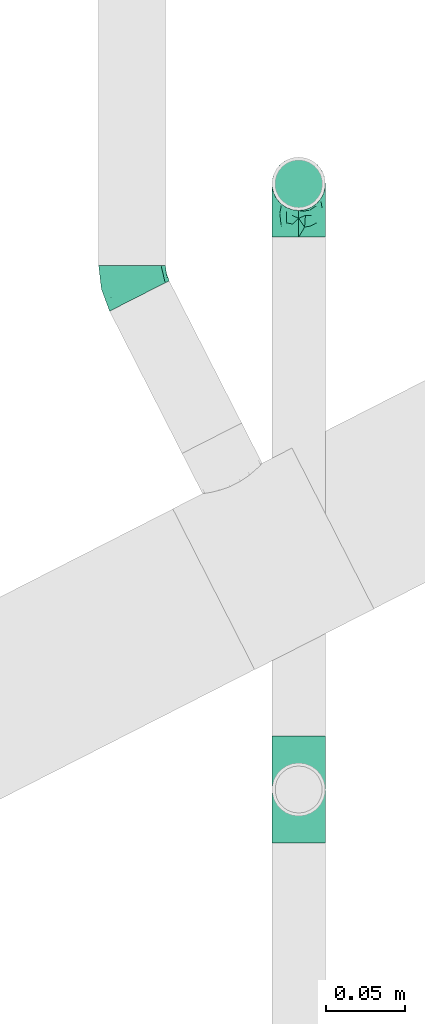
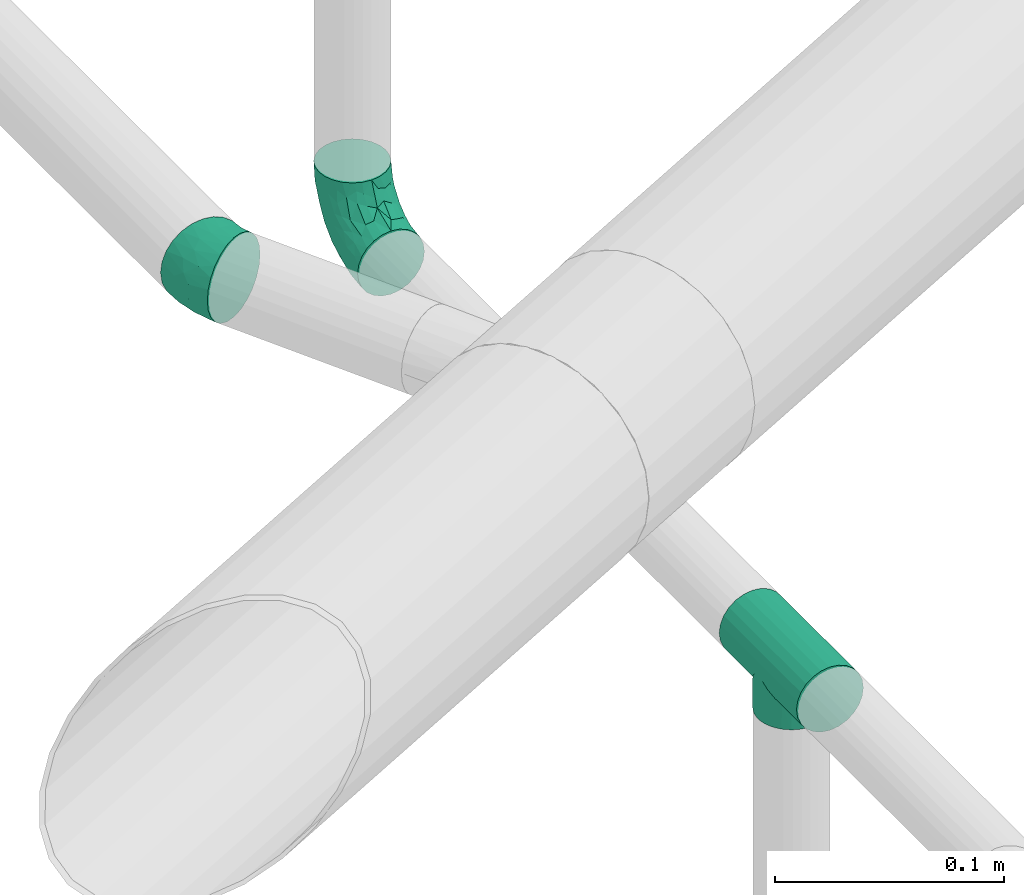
# One storey, part 75 of 94: 3 flow fittings.
"""IFC2X3 building model written with IfcOpenShell, lengths in millimetres."""

from ifc_helpers import new_model, entity, si_unit, converted_unit, derived_unit, direction, frame, origin_with_axes, place, context, subcontext, project, spatial, open_shell, surface_model, source, transform, mapped, type_object, element, save


model = new_model("IFC2X3")

# Units and contexts
model_context = context("Model", 3, precision=0.01, world=frame((0.0, 4.29681676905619e-09, 0.0)), true_north=direction((4.01073788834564e-13, 1.0)))
plan_context = context("Plan", 3, precision=0.01, world=frame((0.0, 4.29681676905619e-09, 0.0)), true_north=direction((4.01073788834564e-13, 1.0)))
body_context = subcontext(model_context, "Body", "Model", "MODEL_VIEW")
ifc_project = project(units=[converted_unit("PLANEANGLEUNIT", "DEGREE", entity("IfcPositiveLengthMeasure", 0.0174532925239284), si_unit("PLANEANGLEUNIT", "RADIAN"), dimensions=[0, 0, 0, 0, 0, 0, 0]), si_unit("AREAUNIT", "SQUARE_METRE"), si_unit("LENGTHUNIT", "METRE", prefix="MILLI"), si_unit("MASSUNIT", "GRAM", prefix="KILO"), si_unit("POWERUNIT", "WATT"), si_unit("PRESSUREUNIT", "PASCAL", prefix="KILO"), si_unit("FORCEUNIT", "NEWTON", prefix="KILO"), si_unit("ELECTRICVOLTAGEUNIT", "VOLT"), si_unit("ELECTRICCURRENTUNIT", "AMPERE"), si_unit("THERMODYNAMICTEMPERATUREUNIT", "DEGREE_CELSIUS"), si_unit("TIMEUNIT", "SECOND"), si_unit("VOLUMEUNIT", "CUBIC_METRE"), derived_unit("LINEARVELOCITYUNIT", [(si_unit("LENGTHUNIT", "METRE"), 1), (si_unit("TIMEUNIT", "SECOND"), -1)]), derived_unit("VOLUMETRICFLOWRATEUNIT", [(si_unit("VOLUMEUNIT", "CUBIC_METRE"), 1), (si_unit("TIMEUNIT", "SECOND"), -1)]), derived_unit("THERMALTRANSMITTANCEUNIT", [(si_unit("POWERUNIT", "WATT"), 1), (si_unit("THERMODYNAMICTEMPERATUREUNIT", "KELVIN"), -1), (si_unit("AREAUNIT", "SQUARE_METRE"), -1)]), derived_unit("SOUNDPRESSUREUNIT", [(si_unit("PRESSUREUNIT", "PASCAL"), 1)])], contexts=[model_context, plan_context])

# Site, building, storey
site_placement = place(None, frame((0.0, -4.29681676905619e-09, 0.0), z_axis=(0.0, 0.0, 1.0), x_axis=(1.0, 0.0, 0.0)))
site = spatial("IfcSite", under=ifc_project, at=site_placement, CompositionType="ELEMENT")
building_placement = place(site_placement, frame((0.0, 4.29681676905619e-09, 0.0), z_axis=(0.0, 0.0, 1.0), x_axis=(1.0, 0.0, 0.0)))
building = spatial("IfcBuilding", under=site, at=building_placement, Name="mc-building", CompositionType="ELEMENT")
storey_placement = place(building_placement, frame((0.0, 0.0, 210900.0), z_axis=(0.0, 0.0, 1.0), x_axis=(1.0, 0.0, 0.0)))
storey = spatial("IfcBuildingStorey", under=building, at=storey_placement, Name="Nivå F", CompositionType="ELEMENT", Elevation=210900.0)

# Flow fittings
pipe_fitting_type_1 = type_object("IfcPipeFittingType", Name="magi_pipe_fe_tee_centric_90_NOR", PredefinedType="JUNCTION")
shared_shape_1 = source(origin_with_axes(), body_context, "Body", "SurfaceModel", [
    surface_model("IfcShellBasedSurfaceModel", [(-33.8, 4.37404, -16.32415), (-33.8, 0.0, -16.9), (-33.8, 16.32415, -4.37404), (-33.8, 8.45, -14.63583), (-33.8, 11.9501, -11.9501), (-33.8, 14.63583, -8.45), (-33.8, -16.9, 0.0), (-33.8, -11.9501, -11.9501), (-33.8, -14.63583, -8.45), (-33.8, -8.45, -14.63583), (-33.8, -4.37404, -16.32415), (-33.8, -16.32415, -4.37404), (-33.8, 14.63583, 8.45), (-33.8, 16.32415, 4.37404), (-33.8, -8.45, 14.63583), (-33.8, 8.45, 14.63583), (-33.8, 11.9501, 11.9501), (-33.8, 4.37404, 16.32415), (-33.8, 0.0, 16.9), (-33.8, -11.9501, 11.9501), (-33.8, -14.63583, 8.45), (-33.8, -16.32415, 4.37404), (-33.8, -4.37404, 16.32415), (-33.8, 16.9, 0.0), (33.8, 4.37404, -16.32415), (33.8, -16.9, 0.0), (33.8, 0.0, -16.9), (33.8, 14.63583, -8.45), (33.8, 8.45, -14.63583), (33.8, 16.32415, -4.37404), (33.8, 11.9501, -11.9501), (33.8, -16.32415, 4.37404), (33.8, -8.45, -14.63583), (33.8, -4.37404, -16.32415), (33.8, -11.9501, -11.9501), (33.8, -14.63583, -8.45), (33.8, -16.32415, -4.37404), (33.8, 16.32415, 4.37404), (33.8, 8.45, 14.63583), (33.8, 14.63583, 8.45), (33.8, 11.9501, 11.9501), (33.8, -8.45, 14.63583), (33.8, 4.37404, 16.32415), (33.8, -14.63583, 8.45), (33.8, -11.9501, 11.9501), (33.8, 0.0, 16.9), (33.8, -4.37404, 16.32415), (33.8, 16.9, 0.0), (16.28698, -16.28698, 4.51047), (16.9, -16.9, 0.0), (14.62704, -14.62704, 8.4652), (9.47213, -9.47213, 13.99602), (12.26343, -12.26343, 11.62834), (-16.9, -16.9, 0.0), (-16.28698, -16.28698, 4.51047), (-14.62704, -14.62704, 8.4652), (-12.26343, -12.26343, 11.62834), (-9.47213, -9.47213, 13.99602), (-6.42894, -6.42894, 15.62942), (6.42894, -6.42894, 15.62942), (3.24522, -3.24522, 16.58549), (0.0, 0.0, 16.9), (-3.24522, -3.24522, 16.58549), (3.24522, -3.24522, -16.58549), (0.0, 0.0, -16.9), (-3.24522, -3.24522, -16.58549), (-6.42894, -6.42894, -15.62942), (6.42894, -6.42894, -15.62942), (9.47213, -9.47213, -13.99602), (12.26343, -12.26343, -11.62834), (14.62704, -14.62704, -8.4652), (16.28698, -16.28698, -4.51047), (-9.47213, -9.47213, -13.99602), (-12.26343, -12.26343, -11.62834), (-16.28698, -16.28698, -4.51047), (-14.62704, -14.62704, -8.4652), (4.37404, -25.35, -16.32415), (-16.9, -25.35, 0.0), (0.0, -25.35, -16.9), (14.63583, -25.35, -8.45), (8.45, -25.35, -14.63583), (16.32415, -25.35, -4.37404), (11.9501, -25.35, -11.9501), (-11.9501, -25.35, -11.9501), (-8.45, -25.35, -14.63583), (-4.37404, -25.35, -16.32415), (-14.63583, -25.35, -8.45), (-16.32415, -25.35, -4.37404), (16.9, -25.35, 0.0), (8.45, -25.35, 14.63583), (16.32415, -25.35, 4.37404), (14.63583, -25.35, 8.45), (-8.45, -25.35, 14.63583), (11.9501, -25.35, 11.9501), (4.37404, -25.35, 16.32415), (-16.32415, -25.35, 4.37404), (-11.9501, -25.35, 11.9501), (-14.63583, -25.35, 8.45), (0.0, -25.35, 16.9), (-4.37404, -25.35, 16.32415)], [open_shell([[[0, 1, 2]], [[3, 0, 4]], [[0, 2, 5]], [[4, 0, 5]], [[6, 2, 1]], [[7, 8, 9]], [[1, 10, 9]], [[11, 6, 8]], [[1, 9, 8]], [[1, 8, 6]], [[6, 12, 2]], [[12, 13, 2]], [[14, 12, 6]], [[12, 14, 15]], [[16, 12, 15]], [[17, 15, 18]], [[19, 14, 20]], [[21, 20, 14]], [[22, 18, 14]], [[14, 6, 21]], [[14, 18, 15]], [[23, 2, 13]], [[24, 25, 26]], [[27, 24, 28]], [[27, 29, 24]], [[27, 28, 30]], [[31, 25, 24]], [[26, 32, 33]], [[26, 34, 32]], [[35, 25, 36]], [[35, 34, 26]], [[25, 35, 26]], [[24, 29, 31]], [[29, 37, 38]], [[38, 37, 39]], [[38, 31, 29]], [[38, 39, 40]], [[41, 38, 42]], [[43, 41, 44]], [[41, 43, 31]], [[41, 45, 46]], [[41, 31, 38]], [[42, 45, 41]], [[29, 47, 37]], [[31, 43, 48]], [[25, 31, 49]], [[49, 31, 48]], [[43, 50, 48]], [[44, 41, 51]], [[50, 43, 52]], [[51, 52, 44]], [[52, 43, 44]], [[53, 54, 21]], [[53, 21, 6]], [[21, 54, 20]], [[54, 55, 20]], [[56, 57, 19]], [[19, 20, 56]], [[19, 57, 14]], [[56, 20, 55]], [[14, 57, 58]], [[51, 41, 59]], [[60, 45, 61]], [[59, 46, 60]], [[46, 59, 41]], [[60, 46, 45]], [[61, 45, 42]], [[39, 37, 13]], [[16, 38, 40]], [[12, 40, 39]], [[42, 38, 15]], [[23, 37, 47]], [[62, 61, 18]], [[62, 22, 58]], [[22, 62, 18]], [[58, 22, 14]], [[61, 17, 18]], [[42, 17, 61]], [[15, 17, 42]], [[15, 38, 16]], [[12, 16, 40]], [[13, 12, 39]], [[37, 23, 13]], [[5, 27, 30]], [[23, 47, 29]], [[30, 28, 3]], [[27, 2, 29]], [[26, 33, 63]], [[26, 64, 24]], [[64, 26, 63]], [[28, 24, 0]], [[64, 0, 24]], [[4, 30, 3]], [[2, 27, 5]], [[5, 30, 4]], [[2, 23, 29]], [[65, 66, 10]], [[1, 0, 64]], [[1, 65, 10]], [[66, 9, 10]], [[0, 3, 28]], [[1, 64, 65]], [[63, 33, 67]], [[32, 34, 68]], [[69, 68, 34]], [[35, 70, 69]], [[69, 34, 35]], [[32, 68, 67]], [[36, 25, 49]], [[36, 71, 35]], [[71, 36, 49]], [[35, 71, 70]], [[72, 9, 66]], [[72, 7, 9]], [[7, 72, 73]], [[7, 73, 8]], [[74, 53, 11]], [[75, 74, 8]], [[74, 11, 8]], [[11, 53, 6]], [[75, 8, 73]], [[32, 67, 33]], [[76, 77, 78]], [[79, 76, 80]], [[79, 81, 76]], [[79, 80, 82]], [[77, 76, 81]], [[78, 83, 84]], [[84, 85, 78]], [[86, 77, 87]], [[83, 78, 86]], [[77, 86, 78]], [[81, 88, 77]], [[89, 88, 90]], [[89, 90, 91]], [[92, 77, 89]], [[89, 91, 93]], [[92, 89, 94]], [[95, 96, 97]], [[96, 95, 92]], [[92, 98, 99]], [[95, 77, 92]], [[94, 98, 92]], [[89, 77, 88]], [[77, 95, 53]], [[54, 53, 95]], [[97, 96, 56]], [[96, 92, 57]], [[95, 97, 54]], [[58, 92, 99]], [[55, 54, 97]], [[56, 55, 97]], [[58, 57, 92]], [[98, 61, 62]], [[58, 99, 62]], [[56, 96, 57]], [[62, 99, 98]], [[94, 60, 98]], [[89, 59, 94]], [[91, 90, 48]], [[52, 93, 91]], [[93, 51, 89]], [[49, 90, 88]], [[59, 60, 94]], [[51, 59, 89]], [[49, 48, 90]], [[50, 52, 91]], [[48, 50, 91]], [[51, 93, 52]], [[98, 60, 61]], [[88, 81, 49]], [[71, 49, 81]], [[79, 82, 69]], [[82, 80, 68]], [[81, 79, 71]], [[67, 80, 76]], [[70, 71, 79]], [[69, 70, 79]], [[67, 68, 80]], [[78, 64, 63]], [[67, 76, 63]], [[69, 82, 68]], [[63, 76, 78]], [[85, 65, 78]], [[84, 66, 85]], [[86, 87, 74]], [[86, 73, 83]], [[72, 84, 83]], [[53, 87, 77]], [[66, 65, 85]], [[72, 66, 84]], [[53, 74, 87]], [[75, 73, 86]], [[74, 75, 86]], [[72, 83, 73]], [[78, 65, 64]]])]),
])
flow_fitting_1_placement = place(storey_placement, frame((720388.90308, 443252.252, 3600.0), z_axis=(1.0, 0.0, 0.0), x_axis=(0.0, 1.0, 0.0)))
element("IfcFlowFitting", 1, at=flow_fitting_1_placement, inside=storey, type_object=pipe_fitting_type_1, Name="magi_pipe_fe_tee_centric_90_NOR", context=body_context, shape_type="MappedRepresentation", body=[
    mapped(shared_shape_1, transform((0.0, 0.0, 0.0), scale=1.0)),
])
pipe_fitting_type_2 = type_object("IfcPipeFittingType", Name="magi_pipe_fe_elbow_short_001", PredefinedType="BEND")
shared_shape_2 = source(origin_with_axes(), body_context, "Body", "SurfaceModel", [
    surface_model("IfcShellBasedSurfaceModel", [(-33.8, 8.45, -14.63583), (-33.8, 4.37404, -16.32415), (-33.8, 11.9501, -11.9501), (-33.8, -11.9501, -11.9501), (-33.8, -14.63583, -8.45), (-33.8, -8.45, -14.63583), (-33.8, 0.0, -16.9), (-33.8, -4.37404, -16.32415), (-33.8, -4.37404, 16.32415), (-33.8, 0.0, 16.9), (-33.8, -8.45, 14.63583), (-33.8, 16.32415, -4.37404), (-33.8, 14.63583, -8.45), (-33.8, -16.32415, -4.37404), (-33.8, -16.9, 0.0), (-33.8, -16.32415, 4.37404), (-33.8, 11.9501, 11.9501), (-33.8, 14.63583, 8.45), (-33.8, 16.32415, 4.37404), (-33.8, 4.37404, 16.32415), (-33.8, 8.45, 14.63583), (-33.8, -14.63583, 8.45), (-33.8, -11.9501, 11.9501), (-33.8, 16.9, 0.0), (-11.9501, 33.8, -11.9501), (0.0, 33.8, -16.9), (-4.37404, 33.8, -16.32415), (-8.45, 33.8, -14.63583), (-14.63583, 33.8, -8.45), (-16.32415, 33.8, -4.37404), (14.63583, 33.8, -8.45), (8.45, 33.8, 14.63583), (16.32415, 33.8, -4.37404), (8.45, 33.8, -14.63583), (11.9501, 33.8, -11.9501), (4.37404, 33.8, -16.32415), (16.32415, 33.8, 4.37404), (16.9, 33.8, 0.0), (-11.9501, 33.8, 11.9501), (-16.32415, 33.8, 4.37404), (-14.63583, 33.8, 8.45), (-8.45, 33.8, 14.63583), (-4.37404, 33.8, 16.32415), (11.9501, 33.8, 11.9501), (14.63583, 33.8, 8.45), (0.0, 33.8, 16.9), (4.37404, 33.8, 16.32415), (-16.9, 33.8, 0.0), (-24.79389, -13.12945, 9.48721), (-22.19287, -9.75018, 12.59315), (-24.09897, -14.97035, 0.0), (-14.93934, -10.76256, 8.5297), (-22.46095, -14.75051, 5.27077), (14.75051, 22.46094, 5.27077), (11.9251, 13.23888, 4.33236), (13.04069, 14.39795, 0.0), (7.71387, 13.68847, 11.55891), (9.75018, 22.19287, 12.59315), (4.10169, 13.0571, 14.04018), (-24.84007, -6.39063, 15.2048), (-25.81779, -2.23879, 16.61097), (-23.66549, 2.59054, 16.87119), (-26.50418, 14.06512, 11.08152), (-24.21253, 17.66365, 7.72657), (-29.58514, 15.86957, 7.00283), (-6.17382, -7.5455, 0.0), (-13.23888, -11.9251, 4.33236), (-14.39795, -13.04069, 0.0), (-17.81434, 18.87373, 11.97104), (-6.30846, 29.15138, 15.82987), (-2.31622, 25.28002, 16.85849), (-29.23923, 10.23435, 13.77053), (-1.45439, -2.85688, 7.61475), (-0.28326, 0.34872, 10.09509), (-5.74484, -4.04709, 10.4122), (-4.41137, 11.31918, 16.59407), (-8.39727, 3.10034, 15.7812), (-1.72649, 9.1306, 15.53089), (-17.39909, 24.75344, 7.64977), (-26.19233, 20.0512, 0.0), (-28.14518, 17.29657, 4.25857), (-26.05147, 6.6281, 15.96447), (-5.87354, 16.61944, 16.86968), (-12.51807, 12.51807, 16.48937), (-10.06312, 7.38516, 16.81295), (-3.01882, 3.01882, 13.81718), (-13.0571, -4.10169, 14.04018), (-16.82553, -0.15166, 16.38038), (10.76256, 14.93934, 8.5297), (13.12945, 24.79389, 9.48721), (6.39063, 24.84007, 15.2048), (2.23879, 25.81779, 16.61097), (-13.68847, -7.71387, 11.55891), (14.97035, 24.09897, 0.0), (-7.30894, 22.89991, 16.09489), (-10.67958, 26.17414, 14.008), (-12.78295, 18.26924, 15.06066), (-13.88562, 22.45231, 12.93244), (-18.04944, 15.16501, 14.04434), (-23.11658, 20.08178, 4.02986), (-21.84989, 21.84989, 0.0), (-18.55817, 25.48277, 3.93065), (-13.95142, 26.94732, 11.03289), (-18.57098, 7.23906, 16.59756), (-16.58335, 4.14122, 16.89279), (-17.96666, 11.46709, 15.63151), (-9.84453, 17.54304, 16.18938), (0.15166, 16.82553, 16.38038), (-23.27207, 11.47201, 14.23154), (3.84842, 5.86994, 10.70473), (-8.0212, -7.54413, 7.93275), (1.00345, -2.19508, 4.57414), (5.13203, 3.01004, 5.90201), (5.24161, 1.7543, 2.53265), (8.70457, 7.04947, 3.99182), (-20.0512, 26.19233, 0.0), (8.4852, 8.76699, 7.09296), (-4.55488, -6.72064, 4.90681), (2.05031, -2.05031, 0.0), (7.5455, 6.17382, 0.0), (-26.75399, 2.1369, -16.845), (-14.61995, 24.73803, -11.27736), (-28.45274, -13.45335, -9.81895), (-26.00469, 6.63555, -15.96645), (-23.06726, 20.04573, -4.26202), (-13.80647, -4.26506, -14.17873), (-14.67501, -0.21081, -16.07388), (-6.7902, -0.2828, -13.8478), (-24.53586, 11.08096, -14.13417), (-26.72048, 14.00837, -11.05776), (10.0967, 24.44989, -12.75976), (5.83237, 21.40218, -15.03047), (6.66249, 28.54238, -15.38093), (-20.38182, 15.48705, -12.74596), (12.53268, 21.23441, -9.15363), (12.54494, 15.67504, -5.54878), (9.7522, 12.89279, -8.66343), (-15.65186, 19.64213, -13.01327), (-12.03528, 20.66498, -14.67665), (-15.61907, 15.61906, -14.83879), (-25.56551, -15.26206, 0.0), (-24.65452, -15.12934, -5.50955), (13.45335, 28.45274, -9.81895), (15.12934, 24.65452, -5.50955), (-7.35442, -8.31014, -5.65563), (-15.67504, -12.54494, -5.54878), (-24.44989, -10.0967, -12.75976), (0.16522, 0.41303, -9.71728), (-5.70658, -5.33066, -8.89288), (-5.13869, -2.37198, -11.53565), (-21.23441, -12.53268, -9.15363), (0.71146, 7.93863, -14.09382), (0.21081, 14.67501, -16.07388), (3.49291, 14.42772, -14.76381), (-24.89911, -2.13088, -16.591), (-28.54238, -6.66249, -15.38093), (-18.44386, -7.71663, -13.26957), (2.13088, 24.89911, -16.591), (-28.64342, 17.44413, -2.89318), (1.70017, -1.28722, -5.09504), (-16.57067, 26.81947, -7.36596), (-17.69055, 27.4263, -3.76405), (-12.89279, -9.7522, -8.66343), (-5.96611, 5.96611, -15.95814), (-20.53709, 20.09345, -8.28985), (-2.1369, 26.75399, -16.845), (-6.89872, 24.58781, -16.02578), (-10.60739, 26.53157, -13.98044), (-21.40218, -5.83237, -15.03047), (2.93192, 5.89627, -11.55917), (6.89393, 12.61842, -11.82233), (5.58056, 5.95325, -8.79455), (-3.99512, 18.61798, -16.89635), (8.31014, 7.35442, -5.65563), (-9.1383, 9.86148, -16.89041), (-9.99983, 16.02119, -16.39699), (-16.68576, 9.78031, -16.34199), (-27.01915, 16.61158, -7.12979), (15.26206, 25.56551, 0.0), (-18.61798, 3.99512, -16.89635), (-19.37495, 27.82495, 0.0), (-12.61842, -6.89393, -11.82233), (-18.84705, 19.14018, -10.96545)], [open_shell([[[0, 1, 2]], [[3, 4, 5]], [[6, 7, 5]], [[8, 9, 10]], [[1, 6, 2]], [[11, 12, 2]], [[4, 2, 6]], [[2, 13, 10]], [[5, 4, 6]], [[2, 4, 13]], [[14, 15, 13]], [[11, 2, 16]], [[11, 17, 18]], [[11, 16, 17]], [[19, 20, 16]], [[16, 2, 10]], [[19, 16, 10]], [[21, 22, 15]], [[22, 13, 15]], [[22, 10, 13]], [[10, 9, 19]], [[11, 18, 23]], [[24, 25, 26]], [[24, 26, 27]], [[24, 28, 29]], [[25, 24, 30]], [[31, 32, 24]], [[33, 30, 34]], [[33, 35, 25]], [[25, 30, 33]], [[32, 30, 24]], [[32, 36, 37]], [[38, 24, 29]], [[39, 40, 29]], [[40, 38, 29]], [[38, 41, 42]], [[38, 31, 24]], [[31, 38, 42]], [[36, 43, 44]], [[36, 32, 43]], [[31, 45, 46]], [[32, 31, 43]], [[42, 45, 31]], [[39, 29, 47]], [[22, 48, 49]], [[15, 14, 50]], [[51, 48, 52]], [[53, 54, 55]], [[48, 22, 21]], [[15, 52, 21]], [[56, 57, 58]], [[49, 10, 22]], [[49, 59, 10]], [[9, 60, 61]], [[62, 63, 64]], [[65, 66, 67]], [[57, 43, 31]], [[62, 68, 63]], [[42, 69, 70]], [[20, 71, 16]], [[8, 60, 9]], [[72, 73, 74]], [[75, 76, 77]], [[16, 62, 17]], [[40, 39, 78]], [[79, 23, 80]], [[64, 18, 17]], [[9, 61, 19]], [[19, 81, 20]], [[82, 83, 84]], [[74, 85, 86]], [[59, 86, 87]], [[88, 89, 57]], [[90, 31, 46]], [[44, 53, 36]], [[46, 45, 91]], [[54, 53, 88]], [[44, 89, 53]], [[92, 86, 49]], [[89, 44, 43]], [[10, 59, 8]], [[53, 55, 93]], [[93, 36, 53]], [[66, 52, 67]], [[94, 82, 70]], [[95, 96, 94]], [[97, 98, 96]], [[79, 99, 100]], [[41, 38, 95]], [[101, 100, 99]], [[68, 78, 63]], [[42, 41, 69]], [[23, 18, 80]], [[95, 94, 69]], [[78, 101, 99]], [[38, 102, 95]], [[70, 45, 42]], [[97, 95, 102]], [[15, 50, 52]], [[90, 57, 31]], [[57, 90, 58]], [[81, 19, 61]], [[103, 104, 84]], [[105, 81, 103]], [[38, 40, 102]], [[106, 96, 83]], [[94, 106, 82]], [[91, 70, 107]], [[71, 62, 16]], [[62, 108, 98]], [[86, 59, 49]], [[67, 52, 50]], [[60, 59, 87]], [[92, 49, 51]], [[86, 85, 76]], [[91, 90, 46]], [[37, 36, 93]], [[107, 77, 58]], [[107, 58, 90]], [[58, 85, 109]], [[110, 74, 92]], [[72, 74, 110]], [[66, 51, 52]], [[72, 111, 112]], [[113, 114, 112]], [[56, 88, 57]], [[52, 48, 21]], [[49, 48, 51]], [[57, 89, 43]], [[53, 89, 88]], [[103, 81, 61]], [[71, 81, 108]], [[18, 64, 80]], [[63, 78, 99]], [[47, 115, 101]], [[101, 115, 100]], [[40, 78, 102]], [[68, 102, 78]], [[97, 96, 95]], [[105, 98, 108]], [[103, 84, 83]], [[107, 70, 82]], [[76, 84, 87]], [[82, 84, 75]], [[70, 91, 45]], [[90, 91, 107]], [[59, 60, 8]], [[61, 60, 87]], [[73, 85, 74]], [[109, 112, 116]], [[103, 61, 104]], [[105, 103, 83]], [[96, 105, 83]], [[81, 105, 108]], [[96, 98, 105]], [[62, 98, 68]], [[61, 87, 104]], [[87, 84, 104]], [[86, 76, 87]], [[77, 76, 85]], [[58, 77, 85]], [[75, 77, 107]], [[82, 75, 107]], [[76, 75, 84]], [[81, 71, 20]], [[62, 71, 108]], [[95, 69, 41]], [[70, 69, 94]], [[62, 64, 17]], [[80, 63, 99]], [[63, 80, 64]], [[80, 99, 79]], [[66, 65, 117]], [[110, 66, 117]], [[112, 114, 116]], [[118, 117, 65]], [[110, 92, 51]], [[112, 111, 113]], [[119, 55, 54]], [[74, 86, 92]], [[58, 109, 56]], [[116, 56, 109]], [[66, 110, 51]], [[72, 110, 117]], [[111, 72, 117]], [[73, 112, 109]], [[117, 118, 111]], [[113, 111, 118]], [[118, 119, 113]], [[114, 119, 54]], [[119, 114, 113]], [[116, 54, 88]], [[54, 116, 114]], [[116, 88, 56]], [[112, 73, 72]], [[85, 73, 109]], [[78, 39, 101]], [[47, 101, 39]], [[102, 68, 97]], [[97, 68, 98]], [[82, 106, 83]], [[94, 96, 106]], [[1, 120, 6]], [[28, 24, 121]], [[3, 122, 4]], [[0, 123, 1]], [[100, 124, 79]], [[125, 126, 127]], [[128, 2, 129]], [[130, 131, 132]], [[128, 129, 133]], [[134, 135, 136]], [[137, 138, 139]], [[128, 0, 2]], [[67, 140, 141]], [[134, 142, 143]], [[141, 13, 4]], [[144, 65, 145]], [[146, 3, 5]], [[147, 148, 149]], [[145, 141, 150]], [[151, 152, 153]], [[154, 7, 6]], [[5, 155, 146]], [[150, 146, 156]], [[155, 5, 7]], [[143, 135, 134]], [[35, 157, 25]], [[23, 79, 158]], [[148, 159, 144]], [[160, 161, 29]], [[145, 162, 144]], [[163, 152, 151]], [[29, 28, 160]], [[121, 164, 160]], [[33, 34, 130]], [[25, 165, 26]], [[26, 165, 166]], [[142, 34, 30]], [[24, 27, 167]], [[124, 161, 164]], [[157, 35, 132]], [[155, 154, 168]], [[123, 0, 128]], [[169, 170, 171]], [[172, 157, 152]], [[26, 166, 27]], [[132, 35, 33]], [[142, 130, 34]], [[168, 154, 126]], [[136, 135, 173]], [[133, 137, 139]], [[2, 12, 129]], [[170, 131, 130]], [[30, 32, 143]], [[172, 174, 175]], [[176, 123, 128]], [[158, 177, 11]], [[135, 55, 119]], [[167, 27, 166]], [[175, 166, 172]], [[137, 167, 138]], [[122, 141, 4]], [[140, 14, 13]], [[32, 37, 178]], [[170, 130, 134]], [[152, 157, 131]], [[165, 157, 172]], [[153, 170, 151]], [[152, 163, 174]], [[168, 125, 156]], [[122, 146, 150]], [[120, 154, 6]], [[179, 174, 126]], [[179, 126, 154]], [[126, 163, 127]], [[162, 145, 150]], [[140, 13, 141]], [[32, 178, 143]], [[55, 143, 178]], [[177, 129, 12]], [[128, 133, 139]], [[176, 128, 139]], [[120, 123, 179]], [[121, 160, 28]], [[161, 100, 180]], [[166, 175, 138]], [[121, 24, 167]], [[161, 47, 29]], [[79, 124, 158]], [[124, 164, 177]], [[161, 124, 100]], [[136, 171, 170]], [[127, 163, 151]], [[147, 171, 159]], [[148, 144, 162]], [[127, 151, 169]], [[127, 181, 125]], [[129, 177, 164]], [[12, 11, 177]], [[159, 65, 144]], [[67, 141, 145]], [[143, 55, 135]], [[135, 119, 173]], [[123, 120, 1]], [[154, 120, 179]], [[157, 165, 25]], [[166, 165, 172]], [[172, 152, 174]], [[176, 139, 175]], [[126, 174, 163]], [[176, 174, 179]], [[174, 176, 175]], [[123, 176, 179]], [[150, 181, 162]], [[127, 149, 181]], [[181, 148, 162]], [[159, 148, 147]], [[171, 136, 173]], [[170, 134, 136]], [[159, 171, 173]], [[171, 147, 169]], [[169, 147, 149]], [[151, 170, 169]], [[164, 182, 129]], [[182, 121, 137]], [[181, 149, 148]], [[169, 149, 127]], [[182, 137, 133]], [[167, 137, 121]], [[166, 138, 167]], [[175, 139, 138]], [[129, 182, 133]], [[121, 182, 164]], [[161, 160, 164]], [[47, 161, 180]], [[177, 158, 124]], [[23, 158, 11]], [[130, 132, 33]], [[157, 132, 131]], [[143, 142, 30]], [[130, 142, 134]], [[154, 155, 7]], [[146, 155, 168]], [[146, 122, 3]], [[141, 122, 150]], [[152, 131, 153]], [[159, 119, 118]], [[67, 145, 65]], [[170, 153, 131]], [[119, 159, 173]], [[159, 118, 65]], [[156, 125, 181]], [[126, 125, 168]], [[150, 156, 181]], [[168, 156, 146]]])]),
])
flow_fitting_2_placement = place(storey_placement, frame((720388.90308, 443636.12104, 3600.0), z_axis=(-1.0, 0.0, 0.0), x_axis=(0.0, 0.0, -1.0)))
element("IfcFlowFitting", 2, at=flow_fitting_2_placement, inside=storey, type_object=pipe_fitting_type_2, Name="magi_pipe_fe_elbow_short_001", context=body_context, shape_type="MappedRepresentation", body=[
    mapped(shared_shape_2, transform((0.0, 0.0, 0.0), scale=1.0)),
])
shared_shape_3 = source(origin_with_axes(), body_context, "Body", "SurfaceModel", [
    surface_model("IfcShellBasedSurfaceModel", [(-10.17934, 10.6, -18.35974), (-10.17934, 5.48696, -20.47763), (-10.17934, 0.0, -21.2), (-10.17934, 14.99066, -14.99066), (-10.17934, 20.47763, -5.48696), (-10.17934, 18.35974, -10.6), (-10.17934, -14.99066, 14.99066), (-10.17934, -21.2, 0.0), (-10.17934, -10.6, -18.35974), (-10.17934, -14.99066, -14.99066), (-10.17934, -5.48696, -20.47763), (-10.17934, -20.47763, -5.48696), (-10.17934, -18.35974, -10.6), (-10.17934, 10.6, 18.35974), (-10.17934, 20.47763, 5.48696), (-10.17934, 18.35974, 10.6), (-10.17934, 14.99066, 14.99066), (-10.17934, 0.0, 21.2), (-10.17934, 5.48696, 20.47763), (-10.17934, -20.47763, 5.48696), (-10.17934, -18.35974, 10.6), (-10.17934, -10.6, 18.35974), (-10.17934, -5.48696, 20.47763), (-10.17934, 21.2, 0.0), (9.06986, 4.62132, -21.2), (6.57883, 9.51024, -20.47763), (4.25756, 14.06599, -18.35974), (2.26424, 17.9781, -14.99066), (0.73471, 20.97997, -10.6), (-0.22679, 22.86702, -5.48696), (17.405, -11.73732, -10.6), (13.88216, -4.82335, -18.35974), (15.87548, -8.73546, -14.99066), (11.56089, -0.2676, -20.47763), (18.69446, -14.26802, 0.0), (18.36651, -13.62438, -5.48696), (17.405, -11.73732, 10.6), (-0.55474, 23.51066, 0.0), (-0.22679, 22.86702, 5.48696), (0.73471, 20.97997, 10.6), (4.25756, 14.06599, 18.35974), (2.26424, 17.9781, 14.99066), (6.57883, 9.51024, 20.47763), (9.06986, 4.62132, 21.2), (13.88216, -4.82335, 18.35974), (15.87548, -8.73546, 14.99066), (18.36651, -13.62438, 5.48696), (11.56089, -0.2676, 20.47763), (2.81468, -11.72397, 16.5397), (0.48222, -16.07773, 12.61035), (4.33573, -18.0596, 7.63463), (0.03814, -7.40861, 19.44502), (0.45493, -1.89492, 20.96414), (-0.84405, 3.51573, 21.06248), (-4.16958, 17.36754, 13.11525), (-3.23882, 13.49065, 16.99799), (-5.2303, 21.78576, 0.0), (-4.92824, -20.57849, 0.0), (-0.32998, -20.06967, 3.883), (-2.10425, 8.76483, 19.70935), (4.66779, -19.44273, 0.0), (9.80184, -13.51453, 12.69669), (8.45241, -18.03449, 3.883), (11.68112, -16.85537, 0.0), (0.45493, -1.89492, -20.96414), (3.32945, -6.61844, -19.44502), (2.81468, -11.72397, -16.5397), (-0.84405, 3.51573, -21.06248), (-4.16958, 17.36754, -13.11525), (-2.59803, -16.49148, -12.69669), (4.33573, -18.0596, -7.63463), (-3.23882, 13.49065, -16.99799), (-0.32998, -20.06967, -3.883), (8.45241, -18.03449, -3.883), (6.86947, -14.54429, -12.61035), (-2.10425, 8.76483, -19.70935)], [open_shell([[[0, 1, 2]], [[3, 0, 2]], [[4, 5, 3]], [[2, 4, 3]], [[6, 2, 7]], [[8, 9, 10]], [[9, 2, 10]], [[11, 7, 12]], [[12, 2, 9]], [[12, 7, 2]], [[6, 4, 2]], [[13, 14, 4]], [[15, 14, 16]], [[13, 4, 6]], [[16, 14, 13]], [[13, 17, 18]], [[19, 20, 7]], [[7, 20, 6]], [[21, 22, 6]], [[17, 6, 22]], [[6, 17, 13]], [[23, 4, 14]], [[24, 25, 26]], [[24, 26, 27]], [[27, 28, 29]], [[27, 29, 24]], [[24, 29, 30]], [[31, 30, 32]], [[30, 31, 33]], [[30, 34, 35]], [[30, 33, 24]], [[30, 36, 34]], [[30, 29, 36]], [[37, 38, 39]], [[39, 40, 29]], [[40, 36, 29]], [[40, 39, 41]], [[42, 43, 40]], [[36, 44, 45]], [[46, 34, 36]], [[44, 43, 47]], [[43, 44, 36]], [[40, 43, 36]], [[29, 37, 39]], [[48, 6, 49]], [[21, 6, 48]], [[6, 20, 49]], [[46, 36, 50]], [[22, 21, 51]], [[51, 52, 22]], [[20, 50, 49]], [[17, 22, 52]], [[17, 53, 18]], [[47, 43, 52]], [[50, 20, 19]], [[45, 44, 48]], [[16, 54, 15]], [[55, 16, 13]], [[44, 51, 48]], [[21, 48, 51]], [[43, 42, 53]], [[56, 14, 38]], [[57, 58, 19]], [[56, 23, 14]], [[38, 14, 15]], [[53, 59, 18]], [[13, 18, 59]], [[52, 53, 17]], [[60, 58, 57]], [[61, 50, 36]], [[51, 44, 47]], [[52, 51, 47]], [[62, 60, 63]], [[53, 52, 43]], [[50, 61, 49]], [[48, 49, 61]], [[55, 54, 16]], [[45, 61, 36]], [[48, 61, 45]], [[62, 63, 46]], [[15, 54, 39]], [[39, 38, 15]], [[37, 56, 38]], [[40, 41, 55]], [[59, 55, 13]], [[63, 34, 46]], [[59, 40, 55]], [[62, 58, 60]], [[41, 54, 55]], [[19, 58, 50]], [[39, 54, 41]], [[53, 42, 59]], [[19, 7, 57]], [[46, 50, 62]], [[62, 50, 58]], [[42, 40, 59]], [[2, 64, 10]], [[8, 65, 66]], [[33, 31, 65]], [[2, 1, 67]], [[68, 3, 5]], [[69, 70, 12]], [[71, 3, 68]], [[72, 73, 60]], [[4, 29, 5]], [[32, 30, 74]], [[64, 67, 24]], [[0, 75, 1]], [[72, 70, 73]], [[57, 11, 72]], [[66, 9, 8]], [[67, 75, 25]], [[11, 12, 70]], [[12, 9, 69]], [[10, 65, 8]], [[75, 71, 26]], [[57, 7, 11]], [[28, 68, 5]], [[4, 23, 56]], [[70, 69, 74]], [[56, 37, 29]], [[72, 60, 57]], [[30, 70, 74]], [[29, 28, 5]], [[68, 28, 27]], [[66, 74, 69]], [[26, 25, 75]], [[10, 64, 65]], [[64, 2, 67]], [[3, 71, 0]], [[31, 66, 65]], [[24, 67, 25]], [[33, 65, 64]], [[67, 1, 75]], [[75, 0, 71]], [[66, 31, 32]], [[30, 35, 70]], [[71, 68, 27]], [[35, 63, 73]], [[70, 35, 73]], [[66, 69, 9]], [[32, 74, 66]], [[27, 26, 71]], [[33, 64, 24]], [[63, 35, 34]], [[4, 56, 29]], [[63, 60, 73]], [[11, 70, 72]]])]),
])
flow_fitting_3_placement = place(storey_placement, frame((720283.33546, 443574.09319, 3650.0), z_axis=(0.0, 0.0, 1.0), x_axis=(0.0, -1.0, 0.0)))
element("IfcFlowFitting", 3, at=flow_fitting_3_placement, inside=storey, type_object=pipe_fitting_type_2, Name="magi_pipe_fe_elbow_short_001", context=body_context, shape_type="MappedRepresentation", body=[
    mapped(shared_shape_3, transform((0.0, 0.0, 0.0), scale=1.0)),
])

save(model, "model.ifc")
